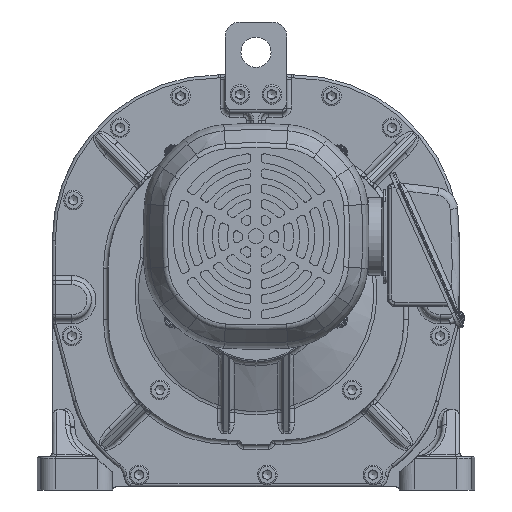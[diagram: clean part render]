
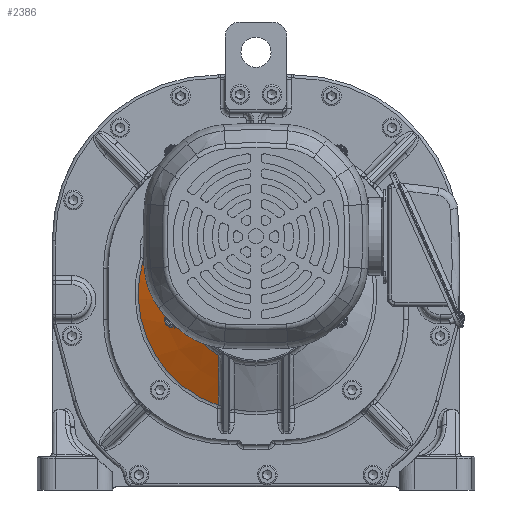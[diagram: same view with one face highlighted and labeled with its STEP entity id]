
A CAD part, left-side view. The second image highlights one B-rep face of the part: STEP entity #2386.
In plain terms, the highlighted conical face has half-angle 65 degrees and reference radius 41.392 mm.
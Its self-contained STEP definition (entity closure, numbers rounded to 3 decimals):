
#2386 = ADVANCED_FACE( '', ( #6777 ), #6778, .T. );
#6777 = FACE_OUTER_BOUND( '', #13891, .T. );
#6778 = CONICAL_SURFACE( '', #13892, 41.392, 1.134 );
#13891 = EDGE_LOOP( '', ( #34241, #34242, #34243, #34244, #34245, #34246 ) );
#13892 = AXIS2_PLACEMENT_3D( '', #34247, #34248, #34249 );
#34241 = ORIENTED_EDGE( '', *, *, #51500, .T. );
#34242 = ORIENTED_EDGE( '', *, *, #51501, .T. );
#34243 = ORIENTED_EDGE( '', *, *, #51502, .T. );
#34244 = ORIENTED_EDGE( '', *, *, #51503, .T. );
#34245 = ORIENTED_EDGE( '', *, *, #51504, .T. );
#34246 = ORIENTED_EDGE( '', *, *, #50924, .T. );
#34247 = CARTESIAN_POINT( '', ( -15.181, -160.952, -40. ) );
#34248 = DIRECTION( '', ( 1., 0., 0. ) );
#34249 = DIRECTION( '', ( 0., -1., 0. ) );
#50924 = EDGE_CURVE( '', #57829, #57834, #57836, .T. );
#51500 = EDGE_CURVE( '', #57834, #58857, #58858, .F. );
#51501 = EDGE_CURVE( '', #58857, #58859, #58860, .T. );
#51502 = EDGE_CURVE( '', #58859, #58861, #58862, .F. );
#51503 = EDGE_CURVE( '', #58861, #58863, #58864, .T. );
#51504 = EDGE_CURVE( '', #58863, #57829, #58865, .T. );
#57829 = VERTEX_POINT( '', #67809 );
#57834 = VERTEX_POINT( '', #67817 );
#57836 = B_SPLINE_CURVE_WITH_KNOTS( '', 3, ( #67819, #67820, #67821, #67822 ), .UNSPECIFIED., .F., .F., ( 4, 4 ), ( 0., 0.002 ), .UNSPECIFIED. );
#58857 = VERTEX_POINT( '', #69885 );
#58858 = CIRCLE( '', #69886, 78.032 );
#58859 = VERTEX_POINT( '', #69887 );
#58860 = B_SPLINE_CURVE_WITH_KNOTS( '', 3, ( #69888, #69889, #69890, #69891, #69892, #69893, #69894, #69895, #69896, #69897, #69898, #69899, #69900, #69901, #69902, #69903, #69904, #69905, #69906, #69907, #69908 ), .UNSPECIFIED., .F., .F., ( 4, 2, 2, 2, 2, 2, 2, 2, 2, 1, 4 ), ( 0., 0.004, 0.009, 0.013, 0.018, 0.022, 0.027, 0.029, 0.031, 0.034, 0.036 ), .UNSPECIFIED. );
#58861 = VERTEX_POINT( '', #69909 );
#58862 = CIRCLE( '', #69910, 47.887 );
#58863 = VERTEX_POINT( '', #69911 );
#58864 = B_SPLINE_CURVE_WITH_KNOTS( '', 3, ( #69912, #69913, #69914, #69915, #69916, #69917, #69918, #69919, #69920, #69921, #69922, #69923, #69924, #69925, #69926, #69927, #69928, #69929, #69930, #69931, #69932, #69933, #69934, #69935, #69936, #69937, #69938, #69939, #69940, #69941, #69942, #69943, #69944, #69945, #69946, #69947 ), .UNSPECIFIED., .F., .F., ( 4, 2, 2, 1, 1, 1, 1, 2, 2, 1, 1, 1, 2, 1, 1, 1, 1, 1, 2, 1, 2, 2, 1, 2, 4 ), ( 0., 0.004, 0.007, 0.011, 0.014, 0.018, 0.022, 0.025, 0.025, 0.026, 0.026, 0.027, 0.029, 0.032, 0.036, 0.04, 0.043, 0.047, 0.051, 0.051, 0.052, 0.052, 0.052, 0.054, 0.058 ), .UNSPECIFIED. );
#58865 = B_SPLINE_CURVE_WITH_KNOTS( '', 3, ( #69948, #69949, #69950, #69951, #69952, #69953, #69954, #69955, #69956, #69957, #69958 ), .UNSPECIFIED., .F., .F., ( 4, 1, 1, 1, 1, 1, 1, 1, 4 ), ( 0., 0.001, 0.002, 0.003, 0.004, 0.005, 0.006, 0.007, 0.008 ), .UNSPECIFIED. );
#67809 = CARTESIAN_POINT( '', ( 1.62, -86.484, -18.818 ) );
#67817 = CARTESIAN_POINT( '', ( 1.905, -86.469, -16.736 ) );
#67819 = CARTESIAN_POINT( '', ( 1.62, -86.484, -18.818 ) );
#67820 = CARTESIAN_POINT( '', ( 1.711, -86.479, -18.124 ) );
#67821 = CARTESIAN_POINT( '', ( 1.806, -86.474, -17.43 ) );
#67822 = CARTESIAN_POINT( '', ( 1.905, -86.469, -16.736 ) );
#69885 = CARTESIAN_POINT( '', ( 1.905, -135.86, -113.887 ) );
#69886 = AXIS2_PLACEMENT_3D( '', #88813, #88814, #88815 );
#69887 = CARTESIAN_POINT( '', ( -12.152, -136.11, -80.939 ) );
#69888 = CARTESIAN_POINT( '', ( 1.905, -135.86, -113.887 ) );
#69889 = CARTESIAN_POINT( '', ( 1.301, -135.866, -112.522 ) );
#69890 = CARTESIAN_POINT( '', ( 0.699, -135.873, -111.156 ) );
#69891 = CARTESIAN_POINT( '', ( -0.503, -135.888, -108.423 ) );
#69892 = CARTESIAN_POINT( '', ( -1.102, -135.896, -107.056 ) );
#69893 = CARTESIAN_POINT( '', ( -2.297, -135.912, -104.321 ) );
#69894 = CARTESIAN_POINT( '', ( -2.892, -135.92, -102.952 ) );
#69895 = CARTESIAN_POINT( '', ( -4.079, -135.938, -100.213 ) );
#69896 = CARTESIAN_POINT( '', ( -4.67, -135.948, -98.842 ) );
#69897 = CARTESIAN_POINT( '', ( -5.847, -135.968, -96.099 ) );
#69898 = CARTESIAN_POINT( '', ( -6.433, -135.978, -94.726 ) );
#69899 = CARTESIAN_POINT( '', ( -7.598, -136., -91.978 ) );
#69900 = CARTESIAN_POINT( '', ( -8.177, -136.012, -90.602 ) );
#69901 = CARTESIAN_POINT( '', ( -9.041, -136.031, -88.536 ) );
#69902 = CARTESIAN_POINT( '', ( -9.327, -136.037, -87.847 ) );
#69903 = CARTESIAN_POINT( '', ( -9.899, -136.051, -86.468 ) );
#69904 = CARTESIAN_POINT( '', ( -10.183, -136.058, -85.778 ) );
#69905 = CARTESIAN_POINT( '', ( -10.75, -136.072, -84.398 ) );
#69906 = CARTESIAN_POINT( '', ( -11.315, -136.086, -83.016 ) );
#69907 = CARTESIAN_POINT( '', ( -11.874, -136.102, -81.632 ) );
#69908 = CARTESIAN_POINT( '', ( -12.152, -136.11, -80.939 ) );
#69909 = CARTESIAN_POINT( '', ( -12.152, -122.804, -68.946 ) );
#69910 = AXIS2_PLACEMENT_3D( '', #88816, #88817, #88818 );
#69911 = CARTESIAN_POINT( '', ( 0.288, -87.686, -26.152 ) );
#69912 = CARTESIAN_POINT( '', ( -12.152, -122.804, -68.946 ) );
#69913 = CARTESIAN_POINT( '', ( -11.93, -121.76, -68.358 ) );
#69914 = CARTESIAN_POINT( '', ( -11.703, -120.735, -67.749 ) );
#69915 = CARTESIAN_POINT( '', ( -11.242, -118.721, -66.487 ) );
#69916 = CARTESIAN_POINT( '', ( -11.008, -117.732, -65.834 ) );
#69917 = CARTESIAN_POINT( '', ( -10.531, -115.79, -64.488 ) );
#69918 = CARTESIAN_POINT( '', ( -10.048, -113.884, -63.099 ) );
#69919 = CARTESIAN_POINT( '', ( -9.304, -111.13, -60.891 ) );
#69920 = CARTESIAN_POINT( '', ( -8.543, -108.481, -58.558 ) );
#69921 = CARTESIAN_POINT( '', ( -7.765, -105.937, -56.1 ) );
#69922 = CARTESIAN_POINT( '', ( -7.237, -104.311, -54.377 ) );
#69923 = CARTESIAN_POINT( '', ( -6.954, -103.467, -53.439 ) );
#69924 = CARTESIAN_POINT( '', ( -6.937, -103.417, -53.383 ) );
#69925 = CARTESIAN_POINT( '', ( -6.903, -103.318, -53.273 ) );
#69926 = CARTESIAN_POINT( '', ( -6.853, -103.17, -53.106 ) );
#69927 = CARTESIAN_POINT( '', ( -6.737, -102.826, -52.717 ) );
#69928 = CARTESIAN_POINT( '', ( -6.503, -102.145, -51.934 ) );
#69929 = CARTESIAN_POINT( '', ( -6.302, -101.575, -51.255 ) );
#69930 = CARTESIAN_POINT( '', ( -5.901, -100.453, -49.885 ) );
#69931 = CARTESIAN_POINT( '', ( -5.365, -99.004, -48.029 ) );
#69932 = CARTESIAN_POINT( '', ( -4.56, -96.968, -45.158 ) );
#69933 = CARTESIAN_POINT( '', ( -3.754, -95.069, -42.203 ) );
#69934 = CARTESIAN_POINT( '', ( -2.947, -93.306, -39.161 ) );
#69935 = CARTESIAN_POINT( '', ( -2.138, -91.681, -36.034 ) );
#69936 = CARTESIAN_POINT( '', ( -1.598, -90.69, -33.892 ) );
#69937 = CARTESIAN_POINT( '', ( -1.261, -90.1, -32.535 ) );
#69938 = CARTESIAN_POINT( '', ( -1.159, -89.925, -32.126 ) );
#69939 = CARTESIAN_POINT( '', ( -1.058, -89.754, -31.716 ) );
#69940 = CARTESIAN_POINT( '', ( -1.007, -89.669, -31.51 ) );
#69941 = CARTESIAN_POINT( '', ( -0.99, -89.64, -31.441 ) );
#69942 = CARTESIAN_POINT( '', ( -0.956, -89.584, -31.304 ) );
#69943 = CARTESIAN_POINT( '', ( -0.804, -89.331, -30.686 ) );
#69944 = CARTESIAN_POINT( '', ( -0.653, -89.086, -30.064 ) );
#69945 = CARTESIAN_POINT( '', ( -0.249, -88.453, -28.4 ) );
#69946 = CARTESIAN_POINT( '', ( 0.02, -88.056, -27.281 ) );
#69947 = CARTESIAN_POINT( '', ( 0.288, -87.686, -26.152 ) );
#69948 = CARTESIAN_POINT( '', ( 0.288, -87.686, -26.152 ) );
#69949 = CARTESIAN_POINT( '', ( 0.358, -87.589, -25.856 ) );
#69950 = CARTESIAN_POINT( '', ( 0.494, -87.407, -25.263 ) );
#69951 = CARTESIAN_POINT( '', ( 0.687, -87.169, -24.366 ) );
#69952 = CARTESIAN_POINT( '', ( 0.869, -86.965, -23.461 ) );
#69953 = CARTESIAN_POINT( '', ( 1.041, -86.797, -22.548 ) );
#69954 = CARTESIAN_POINT( '', ( 1.202, -86.664, -21.628 ) );
#69955 = CARTESIAN_POINT( '', ( 1.353, -86.566, -20.7 ) );
#69956 = CARTESIAN_POINT( '', ( 1.493, -86.504, -19.764 ) );
#69957 = CARTESIAN_POINT( '', ( 1.579, -86.487, -19.134 ) );
#69958 = CARTESIAN_POINT( '', ( 1.62, -86.484, -18.818 ) );
#88813 = CARTESIAN_POINT( '', ( 1.905, -160.952, -40. ) );
#88814 = DIRECTION( '', ( 1., 0., 0. ) );
#88815 = DIRECTION( '', ( 0., -1., 0. ) );
#88816 = CARTESIAN_POINT( '', ( -12.152, -160.952, -40. ) );
#88817 = DIRECTION( '', ( -1., 0., 0. ) );
#88818 = DIRECTION( '', ( 0., 1., 0. ) );
